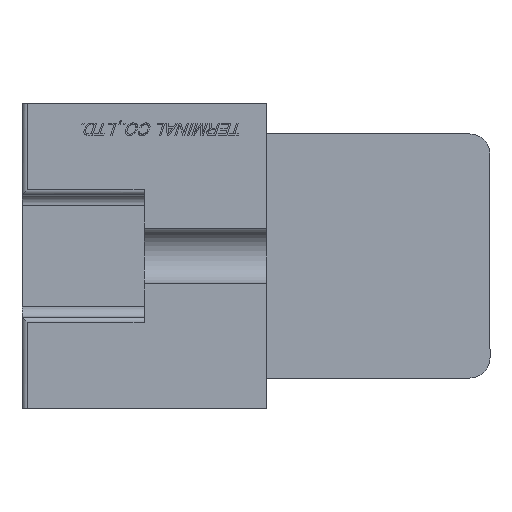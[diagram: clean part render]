
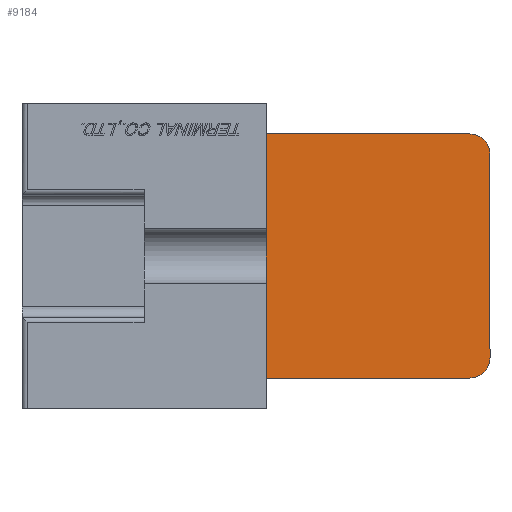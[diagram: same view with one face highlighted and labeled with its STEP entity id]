
A CAD part, left-side view. The second image highlights one B-rep face of the part: STEP entity #9184.
In plain terms, the highlighted planar face has unit normal (-1, 0, 0).
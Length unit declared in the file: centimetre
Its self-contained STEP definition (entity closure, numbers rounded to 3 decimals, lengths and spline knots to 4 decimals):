
#220=CIRCLE('',#16545,0.2);
#222=CIRCLE('',#16549,0.2);
#1199=VERTEX_POINT('',#13442);
#1200=VERTEX_POINT('',#13444);
#1211=VERTEX_POINT('',#13535);
#1212=VERTEX_POINT('',#13539);
#1257=VERTEX_POINT('',#13774);
#1258=VERTEX_POINT('',#13776);
#2219=VECTOR('',#10398,1.);
#2263=VECTOR('',#10539,1.);
#2264=VECTOR('',#10540,1.);
#2265=VECTOR('',#10541,1.);
#3030=LINE('',#13534,#2219);
#3074=LINE('',#13773,#2263);
#3075=LINE('',#13775,#2264);
#3076=LINE('',#13777,#2265);
#3942=EDGE_CURVE('',#1199,#1200,#220,.T.);
#3955=EDGE_CURVE('',#1211,#1200,#3030,.T.);
#3957=EDGE_CURVE('',#1211,#1212,#222,.T.);
#4033=EDGE_CURVE('',#1257,#1199,#3074,.T.);
#4034=EDGE_CURVE('',#1258,#1257,#3075,.T.);
#4035=EDGE_CURVE('',#1258,#1212,#3076,.T.);
#6004=ORIENTED_EDGE('',*,*,#3942,.F.);
#6005=ORIENTED_EDGE('',*,*,#4033,.F.);
#6006=ORIENTED_EDGE('',*,*,#4034,.F.);
#6007=ORIENTED_EDGE('',*,*,#4035,.T.);
#6008=ORIENTED_EDGE('',*,*,#3957,.F.);
#6009=ORIENTED_EDGE('',*,*,#3955,.T.);
#7874=EDGE_LOOP('',(#6004,#6005,#6006,#6007,#6008,#6009));
#8541=FACE_BOUND('',#7874,.T.);
#9184=ADVANCED_FACE('',(#8541),#9667,.T.);
#9667=PLANE('',#16604);
#10385=DIRECTION('',(1.,0.,0.));
#10386=DIRECTION('',(0.,-0.141,0.141));
#10398=DIRECTION('',(0.,0.,1.));
#10402=DIRECTION('',(1.,0.,0.));
#10403=DIRECTION('',(0.,-0.141,-0.141));
#10538=DIRECTION('',(-1.,0.,0.));
#10539=DIRECTION('',(0.,-1.,0.));
#10540=DIRECTION('',(0.,0.,1.));
#10541=DIRECTION('',(0.,-1.,0.));
#13442=CARTESIAN_POINT('',(-4.15,-0.695,1.2));
#13443=CARTESIAN_POINT('',(-4.15,-0.695,1.));
#13444=CARTESIAN_POINT('',(-4.15,-0.895,1.));
#13534=CARTESIAN_POINT('',(-4.15,-0.895,-1.2));
#13535=CARTESIAN_POINT('',(-4.15,-0.895,-1.));
#13538=CARTESIAN_POINT('',(-4.15,-0.695,-1.));
#13539=CARTESIAN_POINT('',(-4.15,-0.695,-1.2));
#13772=CARTESIAN_POINT('',(-4.15,1.305,0.));
#13773=CARTESIAN_POINT('',(-4.15,1.305,1.2));
#13774=CARTESIAN_POINT('',(-4.15,1.305,1.2));
#13775=CARTESIAN_POINT('',(-4.15,1.305,0.));
#13776=CARTESIAN_POINT('',(-4.15,1.305,-1.2));
#13777=CARTESIAN_POINT('',(-4.15,1.305,-1.2));
#16545=AXIS2_PLACEMENT_3D('',#13443,#10385,#10386);
#16549=AXIS2_PLACEMENT_3D('',#13538,#10402,#10403);
#16604=AXIS2_PLACEMENT_3D('',#13772,#10538,$);
